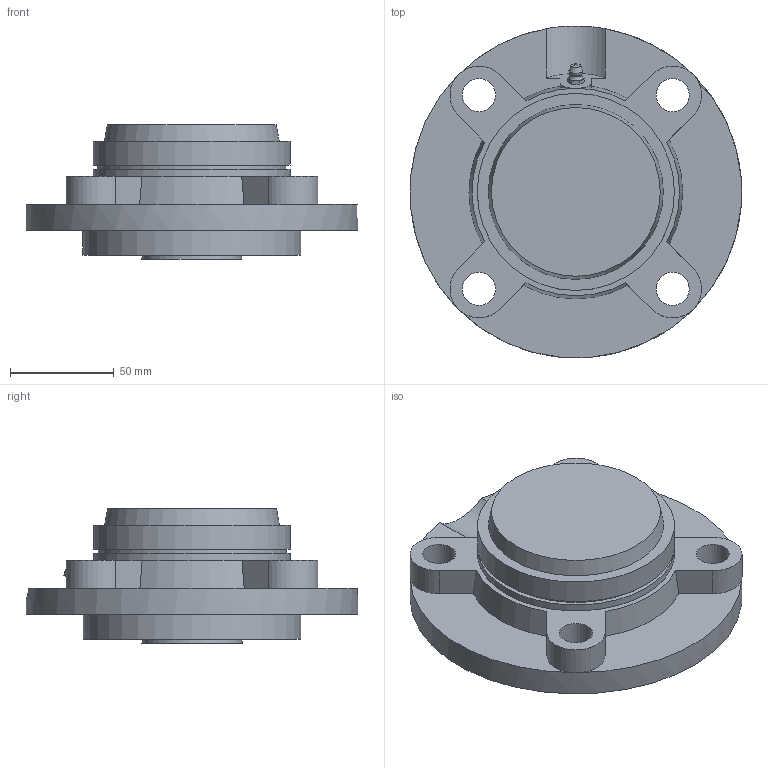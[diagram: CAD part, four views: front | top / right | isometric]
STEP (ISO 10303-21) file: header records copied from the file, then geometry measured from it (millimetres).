
FILE_DESCRIPTION((''),'2;1');
FILE_NAME('\\Ts-tgl068\j-cad-d-base\00.3DCADデータ作成フォルダ\02.フランジ形\UKFC200C(E)\UKFC209E+H.stp','2014-05-22T07:52:36',('btec_1106_2'),(''),'Autodesk Inventor 2012','Autodesk Inventor 2012','');
FILE_SCHEMA(('AUTOMOTIVE_DESIGN { 1 0 10303 214 1 1 1 1 }'));
Length unit declared in the file: millimetre
Products named in the file (5): UKFC200E+H; FC209C; 209CPE; UK209; GU1
Assembly tree (4 placements, depth 2):
  UKFC200E+H
    FC209C
    209CPE
    UK209
    GU1
Bounding box: 159.81 x 159.95 x 65 mm (x, y, z)
Volume: 394704.1 mm3; surface area: 121508.6 mm2
Topology: 4 solids, 4 shells, 199 faces, 506 edges, 329 vertices
Faces by surface type: plane 88, cylinder 52, cone 51, sphere 4, bspline 2, torus 2
Full cylindrical faces by diameter (mm): 5.359 x1, 6.35 x1, 16 x4, 40 x1, 57.3 x2, 89 x1, 90.6 x1, 93.4 x2, 95 x3, 105 x1, 160 x1
Entity records: 5966 total; most frequent: CARTESIAN_POINT 1364, ORIENTED_EDGE 936, DIRECTION 923, EDGE_CURVE 468, AXIS2_PLACEMENT_3D 383, VERTEX_POINT 318, EDGE_LOOP 257, FACE_OUTER_BOUND 199
